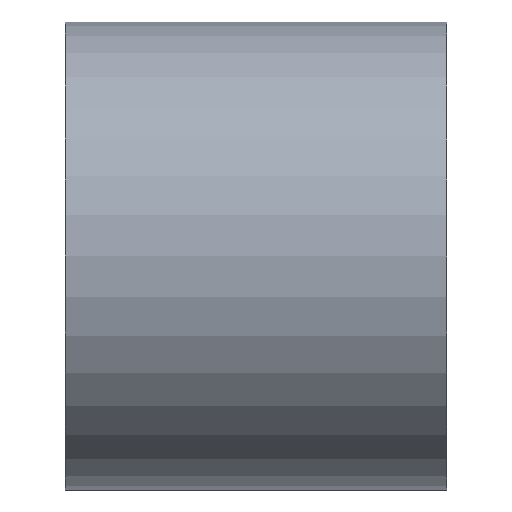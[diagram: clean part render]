
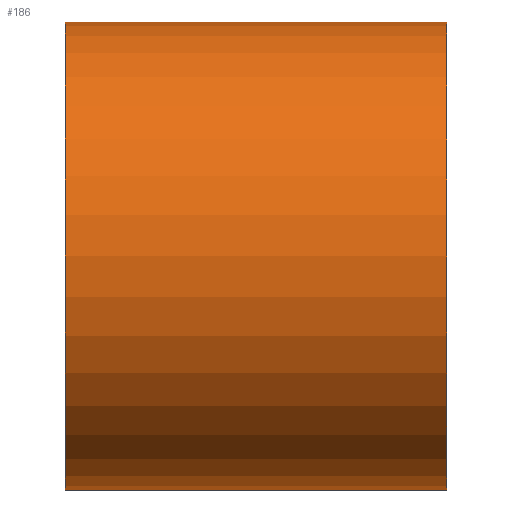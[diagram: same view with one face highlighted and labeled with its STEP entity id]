
A CAD part, front view. The second image highlights one B-rep face of the part: STEP entity #186.
In plain terms, the highlighted cylindrical face has radius 435 mm (diameter 870 mm), a partial arc.
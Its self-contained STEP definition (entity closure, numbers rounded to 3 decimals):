
#186=ADVANCED_FACE('',(#374),#375,.T.);
#374=FACE_OUTER_BOUND('',#589,.T.);
#375=CYLINDRICAL_SURFACE('',#590,435.0);
#589=EDGE_LOOP('',(#1079,#1080,#1081,#1082));
#590=AXIS2_PLACEMENT_3D('',#1083,#1084,#1085);
#1079=ORIENTED_EDGE('',*,*,#1167,.T.);
#1080=ORIENTED_EDGE('',*,*,#1373,.F.);
#1081=ORIENTED_EDGE('',*,*,#1169,.T.);
#1082=ORIENTED_EDGE('',*,*,#1374,.F.);
#1083=CARTESIAN_POINT('',(0.0,0.0,0.0));
#1084=DIRECTION('',(1.0,0.0,0.0));
#1085=DIRECTION('',(0.0,0.0,-1.0));
#1167=EDGE_CURVE('',#1378,#1379,#1380,.T.);
#1169=EDGE_CURVE('',#1383,#1381,#1384,.T.);
#1373=EDGE_CURVE('',#1383,#1379,#1687,.T.);
#1374=EDGE_CURVE('',#1378,#1381,#1688,.T.);
#1378=VERTEX_POINT('',#1692);
#1379=VERTEX_POINT('',#1693);
#1380=LINE('',#1694,#1695);
#1381=VERTEX_POINT('',#1696);
#1383=VERTEX_POINT('',#1698);
#1384=LINE('',#1699,#1700);
#1687=CIRCLE('',#2063,435.0);
#1688=CIRCLE('',#2064,435.0);
#1692=CARTESIAN_POINT('',(-355.0,0.0,-435.0));
#1693=CARTESIAN_POINT('',(355.0,0.0,-435.0));
#1694=CARTESIAN_POINT('',(0.0,0.,-435.0));
#1695=VECTOR('',#2067,1.0);
#1696=CARTESIAN_POINT('',(-355.0,0.,435.0));
#1698=CARTESIAN_POINT('',(355.0,0.,435.0));
#1699=CARTESIAN_POINT('',(0.0,0.,435.0));
#1700=VECTOR('',#2071,1.0);
#2063=AXIS2_PLACEMENT_3D('',#2402,#2403,#2404);
#2064=AXIS2_PLACEMENT_3D('',#2405,#2406,#2407);
#2067=DIRECTION('',(1.0,0.0,0.0));
#2071=DIRECTION('',(-1.0,-0.0,-0.0));
#2402=CARTESIAN_POINT('',(355.0,0.0,0.0));
#2403=DIRECTION('',(1.0,0.0,0.0));
#2404=DIRECTION('',(0.0,0.0,-1.0));
#2405=CARTESIAN_POINT('',(-355.0,0.0,0.0));
#2406=DIRECTION('',(-1.0,0.0,0.0));
#2407=DIRECTION('',(0.0,0.0,-1.0));
